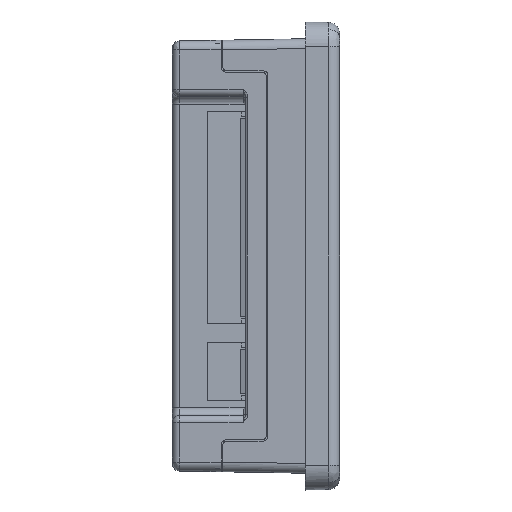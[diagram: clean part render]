
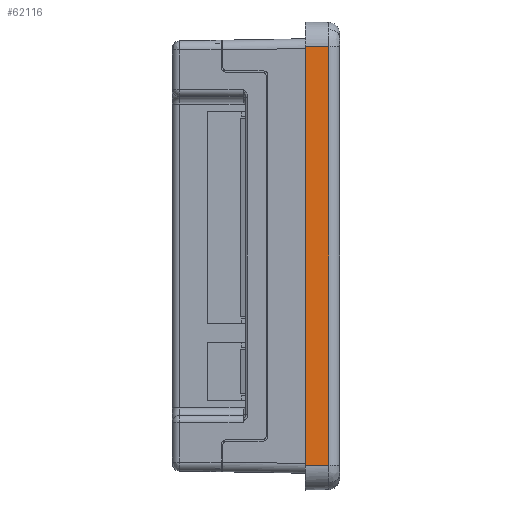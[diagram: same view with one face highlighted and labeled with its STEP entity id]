
A CAD part, front view. The second image highlights one B-rep face of the part: STEP entity #62116.
In plain terms, the highlighted planar face has unit normal (0.018, -1, 0).
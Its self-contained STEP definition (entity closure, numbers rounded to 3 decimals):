
#62 = CARTESIAN_POINT ( 'NONE',  ( 4.74, -46.172, 39.318 ) ) ;
#822 = CARTESIAN_POINT ( 'NONE',  ( 0., -46.254, 39.44 ) ) ;
#3076 = VERTEX_POINT ( 'NONE', #26922 ) ;
#7003 = LINE ( 'NONE', #65351, #7831 ) ;
#7831 = VECTOR ( 'NONE', #21933, 1000. ) ;
#9598 = CARTESIAN_POINT ( 'NONE',  ( 0., -46.254, 44.439 ) ) ;
#10702 = CARTESIAN_POINT ( 'NONE',  ( 0., -46.254, 44.439 ) ) ;
#11011 = DIRECTION ( 'NONE',  ( 0., 0., 1. ) ) ;
#12318 = EDGE_CURVE ( 'NONE', #39358, #55497, #15578, .T. ) ;
#14873 = PLANE ( 'NONE',  #65873 ) ;
#15578 = LINE ( 'NONE', #62, #47886 ) ;
#16931 = CARTESIAN_POINT ( 'NONE',  ( 4.74, -46.172, 39.357 ) ) ;
#17253 = VECTOR ( 'NONE', #21858, 1000. ) ;
#17833 = FACE_OUTER_BOUND ( 'NONE', #41965, .T. ) ;
#21858 = DIRECTION ( 'NONE',  ( 1., 0.017, 0.017 ) ) ;
#21933 = DIRECTION ( 'NONE',  ( -1., -0.017, 0.017 ) ) ;
#24985 = LINE ( 'NONE', #10702, #53892 ) ;
#25067 = DIRECTION ( 'NONE',  ( 0.017, -1., 0. ) ) ;
#25766 = LINE ( 'NONE', #38999, #17253 ) ;
#26922 = CARTESIAN_POINT ( 'NONE',  ( 0., -46.254, -46.562 ) ) ;
#29001 = ORIENTED_EDGE ( 'NONE', *, *, #32316, .T. ) ;
#31251 = DIRECTION ( 'NONE',  ( 1., 0.017, 0. ) ) ;
#31820 = VERTEX_POINT ( 'NONE', #822 ) ;
#32316 = EDGE_CURVE ( 'NONE', #55497, #31820, #7003, .T. ) ;
#35988 = ORIENTED_EDGE ( 'NONE', *, *, #42698, .T. ) ;
#38999 = CARTESIAN_POINT ( 'NONE',  ( 1.587, -46.227, -46.534 ) ) ;
#39358 = VERTEX_POINT ( 'NONE', #61349 ) ;
#41965 = EDGE_LOOP ( 'NONE', ( #45869, #45572, #29001, #35988 ) ) ;
#42698 = EDGE_CURVE ( 'NONE', #31820, #3076, #24985, .T. ) ;
#45572 = ORIENTED_EDGE ( 'NONE', *, *, #12318, .T. ) ;
#45869 = ORIENTED_EDGE ( 'NONE', *, *, #65839, .T. ) ;
#47886 = VECTOR ( 'NONE', #11011, 1000. ) ;
#48744 = DIRECTION ( 'NONE',  ( 0., 0., -1. ) ) ;
#53892 = VECTOR ( 'NONE', #48744, 1000. ) ;
#55497 = VERTEX_POINT ( 'NONE', #16931 ) ;
#61349 = CARTESIAN_POINT ( 'NONE',  ( 4.74, -46.172, -46.479 ) ) ;
#62116 = ADVANCED_FACE ( 'NONE', ( #17833 ), #14873, .T. ) ;
#65351 = CARTESIAN_POINT ( 'NONE',  ( -0.087, -46.256, 39.441 ) ) ;
#65839 = EDGE_CURVE ( 'NONE', #3076, #39358, #25766, .T. ) ;
#65873 = AXIS2_PLACEMENT_3D ( 'NONE', #9598, #25067, #31251 ) ;
